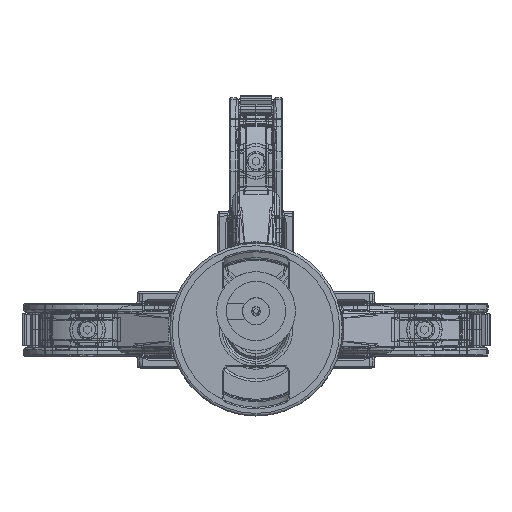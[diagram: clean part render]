
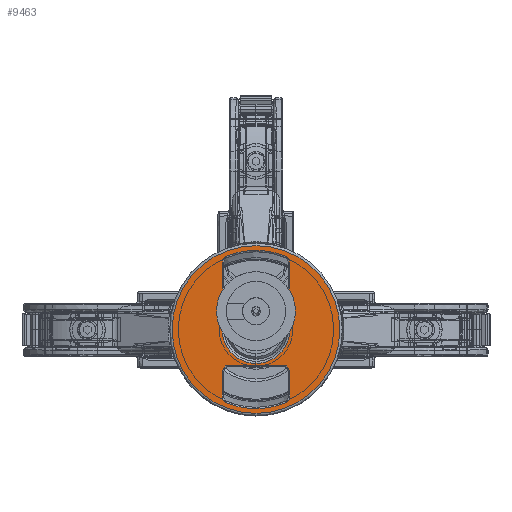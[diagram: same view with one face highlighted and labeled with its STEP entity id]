
A CAD part, top view. The second image highlights one B-rep face of the part: STEP entity #9463.
In plain terms, the highlighted planar face has unit normal (0, 0, 1).
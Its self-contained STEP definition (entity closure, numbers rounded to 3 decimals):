
#2076=LINE('',#110273,#3486);
#2077=LINE('',#110282,#3487);
#2078=LINE('',#110286,#3488);
#2079=LINE('',#110301,#3489);
#2080=LINE('',#110307,#3490);
#2081=LINE('',#110311,#3491);
#3486=VECTOR('',#41464,1.);
#3487=VECTOR('',#41471,1.);
#3488=VECTOR('',#41474,1.);
#3489=VECTOR('',#41489,1.);
#3490=VECTOR('',#41494,1.);
#3491=VECTOR('',#41497,1.);
#7760=PLANE('',#36754);
#9463=ADVANCED_FACE('',(#12881,#12882,#12883,#12884),#7760,.T.);
#12881=FACE_BOUND('',#14576,.T.);
#12882=FACE_BOUND('',#14577,.T.);
#12883=FACE_BOUND('',#14578,.T.);
#12884=FACE_BOUND('',#14579,.T.);
#14576=EDGE_LOOP('',(#22805,#22806,#22807,#22808,#22809,#22810,#22811,#22812));
#14577=EDGE_LOOP('',(#22813,#22814,#22815));
#14578=EDGE_LOOP('',(#22816,#22817,#22818));
#14579=EDGE_LOOP('',(#22819,#22820,#22821,#22822,#22823,#22824,#22825,#22826));
#22805=ORIENTED_EDGE('',*,*,#32823,.F.);
#22806=ORIENTED_EDGE('',*,*,#32824,.F.);
#22807=ORIENTED_EDGE('',*,*,#32825,.F.);
#22808=ORIENTED_EDGE('',*,*,#32826,.F.);
#22809=ORIENTED_EDGE('',*,*,#32827,.T.);
#22810=ORIENTED_EDGE('',*,*,#32828,.F.);
#22811=ORIENTED_EDGE('',*,*,#32829,.F.);
#22812=ORIENTED_EDGE('',*,*,#32830,.F.);
#22813=ORIENTED_EDGE('',*,*,#32831,.F.);
#22814=ORIENTED_EDGE('',*,*,#32832,.F.);
#22815=ORIENTED_EDGE('',*,*,#32833,.F.);
#22816=ORIENTED_EDGE('',*,*,#32834,.F.);
#22817=ORIENTED_EDGE('',*,*,#32835,.F.);
#22818=ORIENTED_EDGE('',*,*,#32836,.F.);
#22819=ORIENTED_EDGE('',*,*,#32837,.F.);
#22820=ORIENTED_EDGE('',*,*,#32838,.F.);
#22821=ORIENTED_EDGE('',*,*,#32810,.F.);
#22822=ORIENTED_EDGE('',*,*,#32839,.F.);
#22823=ORIENTED_EDGE('',*,*,#32840,.F.);
#22824=ORIENTED_EDGE('',*,*,#32841,.T.);
#22825=ORIENTED_EDGE('',*,*,#32842,.F.);
#22826=ORIENTED_EDGE('',*,*,#32843,.T.);
#28115=VERTEX_POINT('',#110247);
#28116=VERTEX_POINT('',#110248);
#28126=VERTEX_POINT('',#110274);
#28127=VERTEX_POINT('',#110275);
#28128=VERTEX_POINT('',#110277);
#28129=VERTEX_POINT('',#110279);
#28130=VERTEX_POINT('',#110281);
#28131=VERTEX_POINT('',#110283);
#28132=VERTEX_POINT('',#110285);
#28133=VERTEX_POINT('',#110287);
#28134=VERTEX_POINT('',#110290);
#28135=VERTEX_POINT('',#110291);
#28136=VERTEX_POINT('',#110293);
#28137=VERTEX_POINT('',#110296);
#28138=VERTEX_POINT('',#110297);
#28139=VERTEX_POINT('',#110299);
#28140=VERTEX_POINT('',#110302);
#28141=VERTEX_POINT('',#110303);
#28142=VERTEX_POINT('',#110306);
#28143=VERTEX_POINT('',#110308);
#28144=VERTEX_POINT('',#110310);
#28145=VERTEX_POINT('',#110312);
#32810=EDGE_CURVE('',#28115,#28116,#34918,.T.);
#32823=EDGE_CURVE('',#28126,#28127,#2076,.T.);
#32824=EDGE_CURVE('',#28128,#28126,#34929,.T.);
#32825=EDGE_CURVE('',#28129,#28128,#34930,.T.);
#32826=EDGE_CURVE('',#28130,#28129,#34931,.T.);
#32827=EDGE_CURVE('',#28130,#28131,#2077,.T.);
#32828=EDGE_CURVE('',#28132,#28131,#34932,.T.);
#32829=EDGE_CURVE('',#28133,#28132,#2078,.T.);
#32830=EDGE_CURVE('',#28127,#28133,#34933,.T.);
#32831=EDGE_CURVE('',#28134,#28135,#34934,.T.);
#32832=EDGE_CURVE('',#28136,#28134,#34935,.T.);
#32833=EDGE_CURVE('',#28135,#28136,#34936,.T.);
#32834=EDGE_CURVE('',#28137,#28138,#34937,.T.);
#32835=EDGE_CURVE('',#28139,#28137,#34938,.T.);
#32836=EDGE_CURVE('',#28138,#28139,#34939,.T.);
#32837=EDGE_CURVE('',#28140,#28141,#2079,.T.);
#32838=EDGE_CURVE('',#28116,#28140,#34940,.T.);
#32839=EDGE_CURVE('',#28142,#28115,#34941,.T.);
#32840=EDGE_CURVE('',#28143,#28142,#2080,.T.);
#32841=EDGE_CURVE('',#28143,#28144,#34942,.T.);
#32842=EDGE_CURVE('',#28145,#28144,#2081,.T.);
#32843=EDGE_CURVE('',#28145,#28141,#34943,.T.);
#34918=CIRCLE('',#36725,16.05);
#34929=CIRCLE('',#36739,1.3);
#34930=CIRCLE('',#36740,16.05);
#34931=CIRCLE('',#36741,1.3);
#34932=CIRCLE('',#36742,1.3);
#34933=CIRCLE('',#36743,1.3);
#34934=CIRCLE('',#36744,6.887);
#34935=CIRCLE('',#36745,6.887);
#34936=CIRCLE('',#36746,6.887);
#34937=CIRCLE('',#36747,17.);
#34938=CIRCLE('',#36748,17.);
#34939=CIRCLE('',#36749,17.);
#34940=CIRCLE('',#36750,1.3);
#34941=CIRCLE('',#36751,1.3);
#34942=CIRCLE('',#36752,1.3);
#34943=CIRCLE('',#36753,1.3);
#36725=AXIS2_PLACEMENT_3D('',#110246,#41434,#41435);
#36739=AXIS2_PLACEMENT_3D('',#110276,#41465,#41466);
#36740=AXIS2_PLACEMENT_3D('',#110278,#41467,#41468);
#36741=AXIS2_PLACEMENT_3D('',#110280,#41469,#41470);
#36742=AXIS2_PLACEMENT_3D('',#110284,#41472,#41473);
#36743=AXIS2_PLACEMENT_3D('',#110288,#41475,#41476);
#36744=AXIS2_PLACEMENT_3D('',#110289,#41477,#41478);
#36745=AXIS2_PLACEMENT_3D('',#110292,#41479,#41480);
#36746=AXIS2_PLACEMENT_3D('',#110294,#41481,#41482);
#36747=AXIS2_PLACEMENT_3D('',#110295,#41483,#41484);
#36748=AXIS2_PLACEMENT_3D('',#110298,#41485,#41486);
#36749=AXIS2_PLACEMENT_3D('',#110300,#41487,#41488);
#36750=AXIS2_PLACEMENT_3D('',#110304,#41490,#41491);
#36751=AXIS2_PLACEMENT_3D('',#110305,#41492,#41493);
#36752=AXIS2_PLACEMENT_3D('',#110309,#41495,#41496);
#36753=AXIS2_PLACEMENT_3D('',#110313,#41498,#41499);
#36754=AXIS2_PLACEMENT_3D('',#110314,#41500,#41501);
#41434=DIRECTION('',(0.,0.,1.));
#41435=DIRECTION('',(1.,0.,0.));
#41464=DIRECTION('',(0.,1.,0.));
#41465=DIRECTION('',(0.,0.,1.));
#41466=DIRECTION('',(1.,0.,0.));
#41467=DIRECTION('',(0.,0.,1.));
#41468=DIRECTION('',(1.,0.,0.));
#41469=DIRECTION('',(0.,0.,1.));
#41470=DIRECTION('',(1.,0.,0.));
#41471=DIRECTION('',(0.,1.,0.));
#41472=DIRECTION('',(0.,0.,1.));
#41473=DIRECTION('',(1.,0.,0.));
#41474=DIRECTION('',(-1.,0.,0.));
#41475=DIRECTION('',(0.,0.,1.));
#41476=DIRECTION('',(1.,0.,0.));
#41477=DIRECTION('',(0.,0.,1.));
#41478=DIRECTION('',(1.,0.,0.));
#41479=DIRECTION('',(0.,0.,1.));
#41480=DIRECTION('',(1.,0.,0.));
#41481=DIRECTION('',(0.,0.,1.));
#41482=DIRECTION('',(1.,0.,0.));
#41483=DIRECTION('',(0.,0.,-1.));
#41484=DIRECTION('',(-1.,0.,0.));
#41485=DIRECTION('',(0.,0.,-1.));
#41486=DIRECTION('',(-1.,0.,0.));
#41487=DIRECTION('',(0.,0.,-1.));
#41488=DIRECTION('',(-1.,0.,0.));
#41489=DIRECTION('',(0.,-1.,0.));
#41490=DIRECTION('',(0.,0.,1.));
#41491=DIRECTION('',(1.,0.,0.));
#41492=DIRECTION('',(0.,0.,1.));
#41493=DIRECTION('',(1.,0.,0.));
#41494=DIRECTION('',(0.,1.,0.));
#41495=DIRECTION('',(0.,0.,-1.));
#41496=DIRECTION('',(-1.,0.,0.));
#41497=DIRECTION('',(1.,0.,0.));
#41498=DIRECTION('',(0.,0.,-1.));
#41499=DIRECTION('',(-1.,0.,0.));
#41500=DIRECTION('',(0.,0.,1.));
#41501=DIRECTION('',(1.,0.,0.));
#110246=CARTESIAN_POINT('',(0.,0.,24.));
#110247=CARTESIAN_POINT('',(5.985,14.892,24.));
#110248=CARTESIAN_POINT('',(-5.985,14.892,24.));
#110273=CARTESIAN_POINT('',(6.8,8.896,24.));
#110274=CARTESIAN_POINT('',(6.8,-13.686,24.));
#110275=CARTESIAN_POINT('',(6.8,-8.5,24.));
#110276=CARTESIAN_POINT('',(5.5,-13.686,24.));
#110277=CARTESIAN_POINT('',(5.985,-14.892,24.));
#110278=CARTESIAN_POINT('',(0.,0.,24.));
#110279=CARTESIAN_POINT('',(-5.985,-14.892,24.));
#110280=CARTESIAN_POINT('',(-5.5,-13.686,24.));
#110281=CARTESIAN_POINT('',(-6.8,-13.686,24.));
#110282=CARTESIAN_POINT('',(-6.8,8.896,24.));
#110283=CARTESIAN_POINT('',(-6.8,-8.5,24.));
#110284=CARTESIAN_POINT('',(-5.5,-8.5,24.));
#110285=CARTESIAN_POINT('',(-5.5,-7.2,24.));
#110286=CARTESIAN_POINT('',(1.796,-7.2,24.));
#110287=CARTESIAN_POINT('',(5.5,-7.2,24.));
#110288=CARTESIAN_POINT('',(5.5,-8.5,24.));
#110289=CARTESIAN_POINT('',(0.,0.,24.));
#110290=CARTESIAN_POINT('',(-6.887,0.,24.));
#110291=CARTESIAN_POINT('',(0.,-6.887,24.));
#110292=CARTESIAN_POINT('',(0.,0.,24.));
#110293=CARTESIAN_POINT('',(6.887,0.,24.));
#110294=CARTESIAN_POINT('',(0.,0.,24.));
#110295=CARTESIAN_POINT('',(0.,0.,24.));
#110296=CARTESIAN_POINT('',(17.,0.,24.));
#110297=CARTESIAN_POINT('',(0.,-17.,24.));
#110298=CARTESIAN_POINT('',(0.,0.,24.));
#110299=CARTESIAN_POINT('',(-17.,0.,24.));
#110300=CARTESIAN_POINT('',(0.,0.,24.));
#110301=CARTESIAN_POINT('',(-6.8,8.896,24.));
#110302=CARTESIAN_POINT('',(-6.8,13.686,24.));
#110303=CARTESIAN_POINT('',(-6.8,8.5,24.));
#110304=CARTESIAN_POINT('',(-5.5,13.686,24.));
#110305=CARTESIAN_POINT('',(5.5,13.686,24.));
#110306=CARTESIAN_POINT('',(6.8,13.686,24.));
#110307=CARTESIAN_POINT('',(6.8,8.896,24.));
#110308=CARTESIAN_POINT('',(6.8,8.5,24.));
#110309=CARTESIAN_POINT('',(5.5,8.5,24.));
#110310=CARTESIAN_POINT('',(5.5,7.2,24.));
#110311=CARTESIAN_POINT('',(1.796,7.2,24.));
#110312=CARTESIAN_POINT('',(-5.5,7.2,24.));
#110313=CARTESIAN_POINT('',(-5.5,8.5,24.));
#110314=CARTESIAN_POINT('',(0.,16.057,24.));
